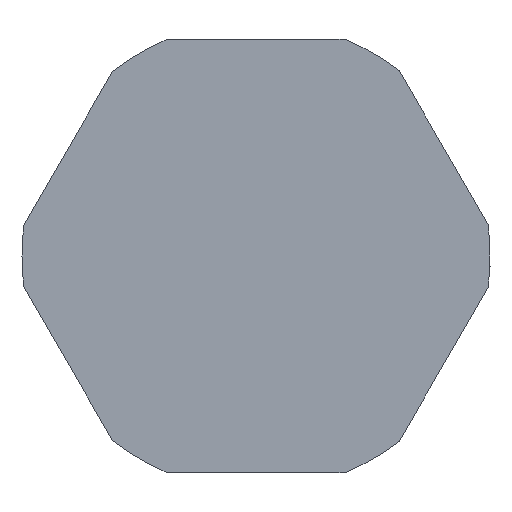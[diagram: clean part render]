
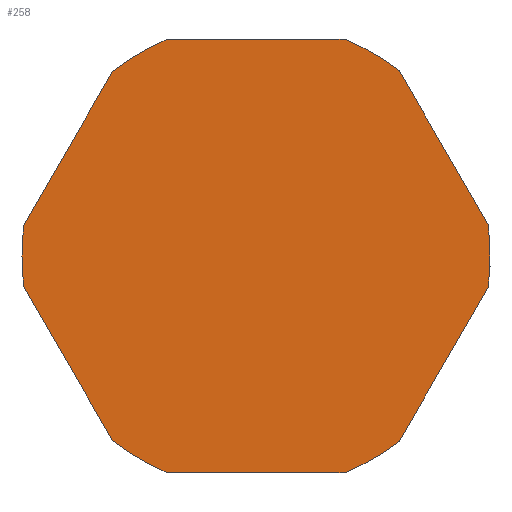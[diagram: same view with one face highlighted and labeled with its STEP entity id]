
A CAD part, left-side view. The second image highlights one B-rep face of the part: STEP entity #258.
In plain terms, the highlighted planar face has unit normal (-1, 0, 0).
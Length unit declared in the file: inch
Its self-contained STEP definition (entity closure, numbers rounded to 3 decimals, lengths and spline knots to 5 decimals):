
#7 = DIRECTION ( 'NONE',  ( 0., -1., 0. ) ) ;
#8 = CARTESIAN_POINT ( 'NONE',  ( -10.75, -5.12255, 17.06924 ) ) ;
#10 = LINE ( 'NONE', #321, #178 ) ;
#11 = EDGE_CURVE ( 'NONE', #323, #138, #470, .T. ) ;
#12 = CARTESIAN_POINT ( 'NONE',  ( -10.75, -5.01748, 16.85534 ) ) ;
#23 = CIRCLE ( 'NONE', #502, 0.27027 ) ;
#24 = CARTESIAN_POINT ( 'NONE',  ( -10.75, -5.45296, 16.64144 ) ) ;
#26 = CARTESIAN_POINT ( 'NONE',  ( -10.75, -5.18511, 16.60532 ) ) ;
#28 = CARTESIAN_POINT ( 'NONE',  ( -10.75, -5.18511, 17.10537 ) ) ;
#35 = VERTEX_POINT ( 'NONE', #28 ) ;
#37 = VERTEX_POINT ( 'NONE', #335 ) ;
#38 = PLANE ( 'NONE',  #493 ) ;
#41 = CIRCLE ( 'NONE', #110, 0.27027 ) ;
#45 = DIRECTION ( 'NONE',  ( 0., 1., 0. ) ) ;
#49 = DIRECTION ( 'NONE',  ( 1., 0., 0. ) ) ;
#56 = VERTEX_POINT ( 'NONE', #26 ) ;
#58 = AXIS2_PLACEMENT_3D ( 'NONE', #166, #362, #485 ) ;
#70 = LINE ( 'NONE', #223, #450 ) ;
#77 = ORIENTED_EDGE ( 'NONE', *, *, #152, .F. ) ;
#85 = CARTESIAN_POINT ( 'NONE',  ( -10.75, -5.28775, 17.10537 ) ) ;
#93 = VERTEX_POINT ( 'NONE', #24 ) ;
#95 = CIRCLE ( 'NONE', #221, 0.27027 ) ;
#98 = DIRECTION ( 'NONE',  ( 0., 1., 0. ) ) ;
#103 = EDGE_CURVE ( 'NONE', #469, #323, #23, .T. ) ;
#108 = DIRECTION ( 'NONE',  ( 0., 1., 0. ) ) ;
#110 = AXIS2_PLACEMENT_3D ( 'NONE', #146, #303, #217 ) ;
#117 = ORIENTED_EDGE ( 'NONE', *, *, #452, .F. ) ;
#128 = EDGE_CURVE ( 'NONE', #175, #93, #343, .T. ) ;
#132 = VECTOR ( 'NONE', #7, 39.37008 ) ;
#138 = VERTEX_POINT ( 'NONE', #501 ) ;
#142 = CARTESIAN_POINT ( 'NONE',  ( -10.75, -5.28775, 16.85534 ) ) ;
#146 = CARTESIAN_POINT ( 'NONE',  ( -10.75, -5.28775, 16.85534 ) ) ;
#148 = AXIS2_PLACEMENT_3D ( 'NONE', #448, #49, #98 ) ;
#152 = EDGE_CURVE ( 'NONE', #37, #161, #70, .T. ) ;
#156 = CARTESIAN_POINT ( 'NONE',  ( -10.75, -5.12255, 16.64144 ) ) ;
#159 = EDGE_CURVE ( 'NONE', #56, #248, #41, .T. ) ;
#161 = VERTEX_POINT ( 'NONE', #379 ) ;
#166 = CARTESIAN_POINT ( 'NONE',  ( -10.75, -5.28775, 16.85534 ) ) ;
#172 = CARTESIAN_POINT ( 'NONE',  ( -10.75, -5.3904, 16.60532 ) ) ;
#175 = VERTEX_POINT ( 'NONE', #263 ) ;
#176 = CARTESIAN_POINT ( 'NONE',  ( -10.75, -5.28775, 16.60532 ) ) ;
#178 = VECTOR ( 'NONE', #477, 39.37008 ) ;
#185 = CIRCLE ( 'NONE', #148, 0.27027 ) ;
#196 = DIRECTION ( 'NONE',  ( 1., 0., 0. ) ) ;
#206 = ORIENTED_EDGE ( 'NONE', *, *, #404, .F. ) ;
#208 = CARTESIAN_POINT ( 'NONE',  ( -10.75, -5.28775, 16.85534 ) ) ;
#210 = ORIENTED_EDGE ( 'NONE', *, *, #225, .F. ) ;
#211 = LINE ( 'NONE', #176, #429 ) ;
#212 = EDGE_CURVE ( 'NONE', #161, #175, #395, .T. ) ;
#217 = DIRECTION ( 'NONE',  ( 0., 1., 0. ) ) ;
#220 = DIRECTION ( 'NONE',  ( 1., 0., 0. ) ) ;
#221 = AXIS2_PLACEMENT_3D ( 'NONE', #306, #275, #434 ) ;
#223 = CARTESIAN_POINT ( 'NONE',  ( -10.75, -5.50428, 16.98035 ) ) ;
#225 = EDGE_CURVE ( 'NONE', #431, #56, #211, .T. ) ;
#227 = EDGE_CURVE ( 'NONE', #248, #469, #10, .T. ) ;
#229 = CIRCLE ( 'NONE', #439, 0.27027 ) ;
#242 = CARTESIAN_POINT ( 'NONE',  ( -10.75, -5.01991, 16.81922 ) ) ;
#243 = DIRECTION ( 'NONE',  ( 0., 1., 0. ) ) ;
#248 = VERTEX_POINT ( 'NONE', #156 ) ;
#252 = ORIENTED_EDGE ( 'NONE', *, *, #103, .F. ) ;
#258 = ADVANCED_FACE ( 'NONE', ( #267 ), #38, .F. ) ;
#261 = DIRECTION ( 'NONE',  ( 0., 0.5, -0.866 ) ) ;
#263 = CARTESIAN_POINT ( 'NONE',  ( -10.75, -5.5556, 16.81922 ) ) ;
#267 = FACE_OUTER_BOUND ( 'NONE', #433, .T. ) ;
#273 = DIRECTION ( 'NONE',  ( 1., 0., 0. ) ) ;
#275 = DIRECTION ( 'NONE',  ( 1., 0., 0. ) ) ;
#278 = EDGE_CURVE ( 'NONE', #453, #37, #95, .T. ) ;
#282 = EDGE_CURVE ( 'NONE', #35, #453, #438, .T. ) ;
#284 = LINE ( 'NONE', #487, #440 ) ;
#292 = ORIENTED_EDGE ( 'NONE', *, *, #422, .F. ) ;
#303 = DIRECTION ( 'NONE',  ( 1., 0., 0. ) ) ;
#306 = CARTESIAN_POINT ( 'NONE',  ( -10.75, -5.28775, 16.85534 ) ) ;
#309 = DIRECTION ( 'NONE',  ( 0., -1., 0. ) ) ;
#321 = CARTESIAN_POINT ( 'NONE',  ( -10.75, -5.07123, 16.73033 ) ) ;
#323 = VERTEX_POINT ( 'NONE', #12 ) ;
#325 = CARTESIAN_POINT ( 'NONE',  ( -10.75, -5.28775, 16.85534 ) ) ;
#330 = ORIENTED_EDGE ( 'NONE', *, *, #128, .F. ) ;
#335 = CARTESIAN_POINT ( 'NONE',  ( -10.75, -5.45296, 17.06924 ) ) ;
#343 = LINE ( 'NONE', #419, #464 ) ;
#346 = AXIS2_PLACEMENT_3D ( 'NONE', #208, #479, #243 ) ;
#362 = DIRECTION ( 'NONE',  ( 1., 0., 0. ) ) ;
#379 = CARTESIAN_POINT ( 'NONE',  ( -10.75, -5.5556, 16.89147 ) ) ;
#382 = DIRECTION ( 'NONE',  ( 0., -0.5, -0.866 ) ) ;
#388 = ORIENTED_EDGE ( 'NONE', *, *, #227, .F. ) ;
#390 = ORIENTED_EDGE ( 'NONE', *, *, #159, .F. ) ;
#395 = CIRCLE ( 'NONE', #58, 0.27027 ) ;
#404 = EDGE_CURVE ( 'NONE', #138, #414, #284, .T. ) ;
#410 = DIRECTION ( 'NONE',  ( 0., -0.5, 0.866 ) ) ;
#414 = VERTEX_POINT ( 'NONE', #8 ) ;
#419 = CARTESIAN_POINT ( 'NONE',  ( -10.75, -5.50428, 16.73033 ) ) ;
#422 = EDGE_CURVE ( 'NONE', #93, #431, #185, .T. ) ;
#429 = VECTOR ( 'NONE', #45, 39.37008 ) ;
#431 = VERTEX_POINT ( 'NONE', #172 ) ;
#433 = EDGE_LOOP ( 'NONE', ( #504, #77, #467, #503, #117, #206, #436, #252, #388, #390, #210, #292, #330 ) ) ;
#434 = DIRECTION ( 'NONE',  ( 0., 1., 0. ) ) ;
#435 = DIRECTION ( 'NONE',  ( 0., 1., 0. ) ) ;
#436 = ORIENTED_EDGE ( 'NONE', *, *, #11, .F. ) ;
#438 = LINE ( 'NONE', #85, #132 ) ;
#439 = AXIS2_PLACEMENT_3D ( 'NONE', #325, #273, #435 ) ;
#440 = VECTOR ( 'NONE', #410, 39.37008 ) ;
#445 = CARTESIAN_POINT ( 'NONE',  ( -10.75, -5.3904, 17.10537 ) ) ;
#448 = CARTESIAN_POINT ( 'NONE',  ( -10.75, -5.28775, 16.85534 ) ) ;
#450 = VECTOR ( 'NONE', #382, 39.37008 ) ;
#452 = EDGE_CURVE ( 'NONE', #414, #35, #229, .T. ) ;
#453 = VERTEX_POINT ( 'NONE', #445 ) ;
#463 = CARTESIAN_POINT ( 'NONE',  ( -10.75, -5.28775, 16.85534 ) ) ;
#464 = VECTOR ( 'NONE', #261, 39.37008 ) ;
#467 = ORIENTED_EDGE ( 'NONE', *, *, #278, .F. ) ;
#469 = VERTEX_POINT ( 'NONE', #242 ) ;
#470 = CIRCLE ( 'NONE', #346, 0.27027 ) ;
#477 = DIRECTION ( 'NONE',  ( 0., 0.5, 0.866 ) ) ;
#479 = DIRECTION ( 'NONE',  ( 1., 0., 0. ) ) ;
#485 = DIRECTION ( 'NONE',  ( 0., 1., 0. ) ) ;
#487 = CARTESIAN_POINT ( 'NONE',  ( -10.75, -5.07123, 16.98035 ) ) ;
#493 = AXIS2_PLACEMENT_3D ( 'NONE', #463, #196, #309 ) ;
#501 = CARTESIAN_POINT ( 'NONE',  ( -10.75, -5.01991, 16.89147 ) ) ;
#502 = AXIS2_PLACEMENT_3D ( 'NONE', #142, #220, #108 ) ;
#503 = ORIENTED_EDGE ( 'NONE', *, *, #282, .F. ) ;
#504 = ORIENTED_EDGE ( 'NONE', *, *, #212, .F. ) ;
